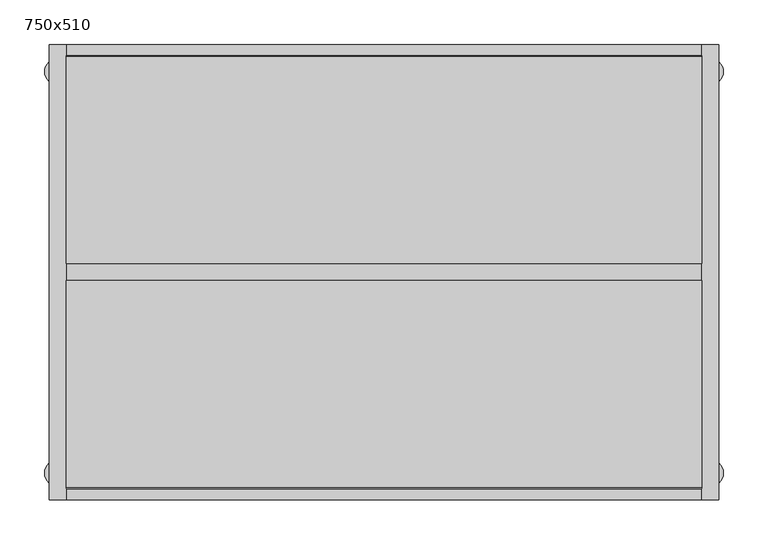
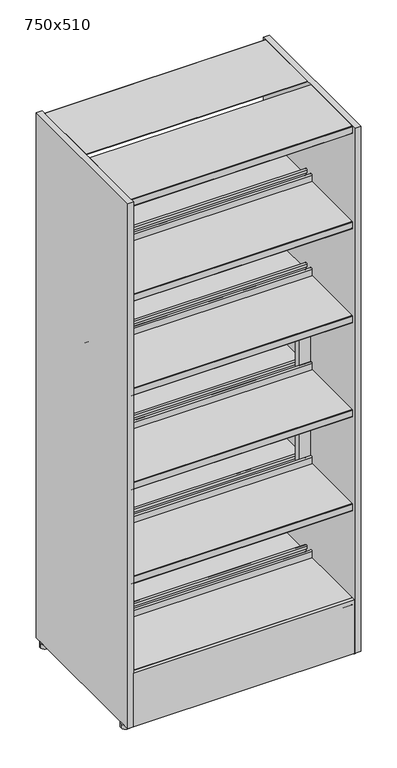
"""IFC4 building model written with IfcOpenShell, lengths in millimetres: furniture geometry, BK Library - Smaaland DS - 1800 : 750x510."""

from ifc_helpers import new_model, si_unit, point, frame, frame_2d, origin, origin_with_axes, place, context, project, spatial, polyline, circle_curve, trimmed, segment, composite_curve, outline, extrude, source, transform, mapped, element, save


def furniture_750x510_247eee5f(model_context):
    return source(origin(), model_context, "Body", "SweptSolid", [
        extrude(outline(polyline([(356.0, 255.0), (356.0, 242.7476624), (-356.0, 242.7476624), (-356.0, 255.0), (356.0, 255.0)])), frame((0.0, 0.0, 13.6999998), z_axis=(0.0, 0.0, 1.0), x_axis=(1.0, 0.0, 0.0)), (0.0, 0.0, 1.0), 181.4999514),
        extrude(outline(polyline([(356.0, -242.7476624), (356.0, -255.0), (-356.0, -255.0), (-356.0, -242.7476624), (356.0, -242.7476624)])), frame((0.0, 0.0, 13.6999998), z_axis=(0.0, 0.0, 1.0), x_axis=(1.0, 0.0, 0.0)), (0.0, 0.0, 1.0), 181.4999514),
        extrude(outline(polyline([(1106.1999512, -356.0), (391.1999512, -356.0), (391.1999512, 356.0), (1106.1999512, 356.0), (1106.1999512, -356.0)]), holes=[polyline([(1066.1999514, -317.5), (1066.1999514, 317.5), (431.1999514, 317.5), (431.1999514, -317.5), (1066.1999514, -317.5)])]), frame((0.0, -9.5, 0.0), z_axis=(0.0, 1.0, 0.0), x_axis=(0.0, 0.0, 1.0)), (0.0, 0.0, 1.0), 19.0),
        extrude(outline(composite_curve([segment(polyline([(9.5, 1800.0), (241.25, 1800.0)]), True, "CONTINUOUS"), segment(trimmed(circle_curve(frame_2d((241.25, 1798.5)), 1.5), [point((241.25, 1800.0))], [point((242.75, 1798.5))], False, "CARTESIAN"), True, "CONTINUOUS"), segment(polyline([(242.75, 1798.5), (242.75, 1776.5)]), True, "CONTINUOUS"), segment(trimmed(circle_curve(frame_2d((241.25, 1776.5)), 1.5), [point((242.75, 1776.5))], [point((241.25, 1775.0))], False, "CARTESIAN"), True, "CONTINUOUS"), segment(polyline([(241.25, 1775.0), (229.25, 1775.0), (229.25, 1776.5), (241.25, 1776.5), (241.25, 1798.0), (9.5, 1798.0), (9.5, 1800.0)]), True, "CONTINUOUS")], self_intersect=False)), frame((-356.0, 0.0, 0.0), z_axis=(1.0, 0.0, 0.0), x_axis=(0.0, 1.0, 0.0)), (0.0, 0.0, 1.0), 712.0),
        extrude(outline(composite_curve([segment(polyline([(17.75, 1475.1999512), (241.25, 1475.1999512)]), True, "CONTINUOUS"), segment(trimmed(circle_curve(frame_2d((241.25, 1473.6999512)), 1.5), [point((241.25, 1475.1999512))], [point((242.75, 1473.6999512))], False, "CARTESIAN"), True, "CONTINUOUS"), segment(polyline([(242.75, 1473.6999512), (242.75, 1452.1999512)]), True, "CONTINUOUS"), segment(trimmed(circle_curve(frame_2d((241.25, 1452.1999512)), 1.5), [point((242.75, 1452.1999512))], [point((241.25, 1450.6999512))], False, "CARTESIAN"), True, "CONTINUOUS"), segment(polyline([(241.25, 1450.6999512), (229.25, 1450.6999512), (229.25, 1452.1999512), (241.25, 1452.1999512), (241.25, 1473.6999512), (17.7048221, 1473.6999512)]), True, "CONTINUOUS"), segment(trimmed(circle_curve(frame_2d((17.7048221, 1475.1547733)), 1.4548221), [point((17.7048221, 1473.6999512))], [point((16.25, 1475.1547733))], False, "CARTESIAN"), True, "CONTINUOUS"), segment(polyline([(16.25, 1475.1547733), (16.25, 1496.7020126)]), True, "CONTINUOUS"), segment(trimmed(circle_curve(frame_2d((14.25, 1496.7020126)), 2.0), [point((16.25, 1496.7020126))], [point((12.25, 1496.7020126))], True, "CARTESIAN"), True, "CONTINUOUS"), segment(polyline([(12.25, 1496.7020126), (12.25, 1488.1999512), (10.75, 1488.1999512), (10.75, 1496.7196336)]), True, "CONTINUOUS"), segment(trimmed(circle_curve(frame_2d((14.25, 1496.7196336)), 3.5), [point((10.75, 1496.7196336))], [point((17.75, 1496.7196336))], False, "CARTESIAN"), True, "CONTINUOUS"), segment(polyline([(17.75, 1496.7196336), (17.75, 1475.1999512)]), True, "CONTINUOUS")], self_intersect=False)), frame((-356.0, 0.0, 0.0), z_axis=(1.0, 0.0, 0.0), x_axis=(0.0, 1.0, 0.0)), (0.0, 0.0, 1.0), 712.0),
        extrude(outline(composite_curve([segment(polyline([(17.75, 1155.1999512), (241.25, 1155.1999512)]), True, "CONTINUOUS"), segment(trimmed(circle_curve(frame_2d((241.25, 1153.6999512)), 1.5), [point((241.25, 1155.1999512))], [point((242.75, 1153.6999512))], False, "CARTESIAN"), True, "CONTINUOUS"), segment(polyline([(242.75, 1153.6999512), (242.75, 1132.1999512)]), True, "CONTINUOUS"), segment(trimmed(circle_curve(frame_2d((241.25, 1132.1999512)), 1.5), [point((242.75, 1132.1999512))], [point((241.25, 1130.6999512))], False, "CARTESIAN"), True, "CONTINUOUS"), segment(polyline([(241.25, 1130.6999512), (229.25, 1130.6999512), (229.25, 1132.1999512), (241.25, 1132.1999512), (241.25, 1153.6999512), (17.7048221, 1153.6999512)]), True, "CONTINUOUS"), segment(trimmed(circle_curve(frame_2d((17.7048221, 1155.1547733)), 1.4548221), [point((17.7048221, 1153.6999512))], [point((16.25, 1155.1547733))], False, "CARTESIAN"), True, "CONTINUOUS"), segment(polyline([(16.25, 1155.1547733), (16.25, 1176.7020126)]), True, "CONTINUOUS"), segment(trimmed(circle_curve(frame_2d((14.25, 1176.7020126)), 2.0), [point((16.25, 1176.7020126))], [point((12.25, 1176.7020126))], True, "CARTESIAN"), True, "CONTINUOUS"), segment(polyline([(12.25, 1176.7020126), (12.25, 1168.1999512), (10.75, 1168.1999512), (10.75, 1176.7196336)]), True, "CONTINUOUS"), segment(trimmed(circle_curve(frame_2d((14.25, 1176.7196336)), 3.5), [point((10.75, 1176.7196336))], [point((17.75, 1176.7196336))], False, "CARTESIAN"), True, "CONTINUOUS"), segment(polyline([(17.75, 1176.7196336), (17.75, 1155.1999512)]), True, "CONTINUOUS")], self_intersect=False)), frame((-356.0, 0.0, 0.0), z_axis=(1.0, 0.0, 0.0), x_axis=(0.0, 1.0, 0.0)), (0.0, 0.0, 1.0), 712.0),
        extrude(outline(composite_curve([segment(polyline([(17.75, 835.1999512), (241.25, 835.1999512)]), True, "CONTINUOUS"), segment(trimmed(circle_curve(frame_2d((241.25, 833.6999512)), 1.5), [point((241.25, 835.1999512))], [point((242.75, 833.6999512))], False, "CARTESIAN"), True, "CONTINUOUS"), segment(polyline([(242.75, 833.6999512), (242.75, 812.1999512)]), True, "CONTINUOUS"), segment(trimmed(circle_curve(frame_2d((241.25, 812.1999512)), 1.5), [point((242.75, 812.1999512))], [point((241.25, 810.6999512))], False, "CARTESIAN"), True, "CONTINUOUS"), segment(polyline([(241.25, 810.6999512), (229.25, 810.6999512), (229.25, 812.1999512), (241.25, 812.1999512), (241.25, 833.6999512), (17.7048221, 833.6999512)]), True, "CONTINUOUS"), segment(trimmed(circle_curve(frame_2d((17.7048221, 835.1547733)), 1.4548221), [point((17.7048221, 833.6999512))], [point((16.25, 835.1547733))], False, "CARTESIAN"), True, "CONTINUOUS"), segment(polyline([(16.25, 835.1547733), (16.25, 856.7020126)]), True, "CONTINUOUS"), segment(trimmed(circle_curve(frame_2d((14.25, 856.7020126)), 2.0), [point((16.25, 856.7020126))], [point((12.25, 856.7020126))], True, "CARTESIAN"), True, "CONTINUOUS"), segment(polyline([(12.25, 856.7020126), (12.25, 848.1999512), (10.75, 848.1999512), (10.75, 856.7196336)]), True, "CONTINUOUS"), segment(trimmed(circle_curve(frame_2d((14.25, 856.7196336)), 3.5), [point((10.75, 856.7196336))], [point((17.75, 856.7196336))], False, "CARTESIAN"), True, "CONTINUOUS"), segment(polyline([(17.75, 856.7196336), (17.75, 835.1999512)]), True, "CONTINUOUS")], self_intersect=False)), frame((-356.0, 0.0, 0.0), z_axis=(1.0, 0.0, 0.0), x_axis=(0.0, 1.0, 0.0)), (0.0, 0.0, 1.0), 712.0),
        extrude(outline(composite_curve([segment(polyline([(17.75, 515.1999512), (241.25, 515.1999512)]), True, "CONTINUOUS"), segment(trimmed(circle_curve(frame_2d((241.25, 513.6999512)), 1.5), [point((241.25, 515.1999512))], [point((242.75, 513.6999512))], False, "CARTESIAN"), True, "CONTINUOUS"), segment(polyline([(242.75, 513.6999512), (242.75, 492.1999512)]), True, "CONTINUOUS"), segment(trimmed(circle_curve(frame_2d((241.25, 492.1999512)), 1.5), [point((242.75, 492.1999512))], [point((241.25, 490.6999512))], False, "CARTESIAN"), True, "CONTINUOUS"), segment(polyline([(241.25, 490.6999512), (229.25, 490.6999512), (229.25, 492.1999512), (241.25, 492.1999512), (241.25, 513.6999512), (17.7048221, 513.6999512)]), True, "CONTINUOUS"), segment(trimmed(circle_curve(frame_2d((17.7048221, 515.1547733)), 1.4548221), [point((17.7048221, 513.6999512))], [point((16.25, 515.1547733))], False, "CARTESIAN"), True, "CONTINUOUS"), segment(polyline([(16.25, 515.1547733), (16.25, 536.7020126)]), True, "CONTINUOUS"), segment(trimmed(circle_curve(frame_2d((14.25, 536.7020126)), 2.0), [point((16.25, 536.7020126))], [point((12.25, 536.7020126))], True, "CARTESIAN"), True, "CONTINUOUS"), segment(polyline([(12.25, 536.7020126), (12.25, 528.1999512), (10.75, 528.1999512), (10.75, 536.7196336)]), True, "CONTINUOUS"), segment(trimmed(circle_curve(frame_2d((14.25, 536.7196336)), 3.5), [point((10.75, 536.7196336))], [point((17.75, 536.7196336))], False, "CARTESIAN"), True, "CONTINUOUS"), segment(polyline([(17.75, 536.7196336), (17.75, 515.1999512)]), True, "CONTINUOUS")], self_intersect=False)), frame((-356.0, 0.0, 0.0), z_axis=(1.0, 0.0, 0.0), x_axis=(0.0, 1.0, 0.0)), (0.0, 0.0, 1.0), 712.0),
        extrude(outline(composite_curve([segment(polyline([(17.75, 195.1999512), (241.25, 195.1999512)]), True, "CONTINUOUS"), segment(trimmed(circle_curve(frame_2d((241.25, 193.6999512)), 1.5), [point((241.25, 195.1999512))], [point((242.75, 193.6999512))], False, "CARTESIAN"), True, "CONTINUOUS"), segment(polyline([(242.75, 193.6999512), (242.75, 172.1999512)]), True, "CONTINUOUS"), segment(trimmed(circle_curve(frame_2d((241.25, 172.1999512)), 1.5), [point((242.75, 172.1999512))], [point((241.25, 170.6999512))], False, "CARTESIAN"), True, "CONTINUOUS"), segment(polyline([(241.25, 170.6999512), (229.25, 170.6999512), (229.25, 172.1999512), (241.25, 172.1999512), (241.25, 193.6999512), (17.7048221, 193.6999512)]), True, "CONTINUOUS"), segment(trimmed(circle_curve(frame_2d((17.7048221, 195.1547733)), 1.4548221), [point((17.7048221, 193.6999512))], [point((16.25, 195.1547733))], False, "CARTESIAN"), True, "CONTINUOUS"), segment(polyline([(16.25, 195.1547733), (16.25, 216.7020126)]), True, "CONTINUOUS"), segment(trimmed(circle_curve(frame_2d((14.25, 216.7020126)), 2.0), [point((16.25, 216.7020126))], [point((12.25, 216.7020126))], True, "CARTESIAN"), True, "CONTINUOUS"), segment(polyline([(12.25, 216.7020126), (12.25, 208.1999512), (10.75, 208.1999512), (10.75, 216.7196336)]), True, "CONTINUOUS"), segment(trimmed(circle_curve(frame_2d((14.25, 216.7196336)), 3.5), [point((10.75, 216.7196336))], [point((17.75, 216.7196336))], False, "CARTESIAN"), True, "CONTINUOUS"), segment(polyline([(17.75, 216.7196336), (17.75, 195.1999512)]), True, "CONTINUOUS")], self_intersect=False)), frame((-356.0, 0.0, 0.0), z_axis=(1.0, 0.0, 0.0), x_axis=(0.0, 1.0, 0.0)), (0.0, 0.0, 1.0), 712.0),
        extrude(outline(composite_curve([segment(polyline([(-9.5, 1800.0), (-9.5, 1798.0), (-241.25, 1798.0), (-241.25, 1776.5), (-229.25, 1776.5), (-229.25, 1775.0), (-241.25, 1775.0)]), True, "CONTINUOUS"), segment(trimmed(circle_curve(frame_2d((-241.25, 1776.5)), 1.5), [point((-241.25, 1775.0))], [point((-242.75, 1776.5))], False, "CARTESIAN"), True, "CONTINUOUS"), segment(polyline([(-242.75, 1776.5), (-242.75, 1798.5)]), True, "CONTINUOUS"), segment(trimmed(circle_curve(frame_2d((-241.25, 1798.5)), 1.5), [point((-242.75, 1798.5))], [point((-241.25, 1800.0))], False, "CARTESIAN"), True, "CONTINUOUS"), segment(polyline([(-241.25, 1800.0), (-9.5, 1800.0)]), True, "CONTINUOUS")], self_intersect=False)), frame((-356.0, 0.0, 0.0), z_axis=(1.0, 0.0, 0.0), x_axis=(0.0, 1.0, 0.0)), (0.0, 0.0, 1.0), 712.0),
        extrude(outline(composite_curve([segment(polyline([(-17.75, 1475.1999512), (-17.75, 1496.7196336)]), True, "CONTINUOUS"), segment(trimmed(circle_curve(frame_2d((-14.25, 1496.7196336)), 3.5), [point((-17.75, 1496.7196336))], [point((-10.75, 1496.7196336))], False, "CARTESIAN"), True, "CONTINUOUS"), segment(polyline([(-10.75, 1496.7196336), (-10.75, 1488.1999512), (-12.25, 1488.1999512), (-12.25, 1496.7020126)]), True, "CONTINUOUS"), segment(trimmed(circle_curve(frame_2d((-14.25, 1496.7020126)), 2.0), [point((-12.25, 1496.7020126))], [point((-16.25, 1496.7020126))], True, "CARTESIAN"), True, "CONTINUOUS"), segment(polyline([(-16.25, 1496.7020126), (-16.25, 1475.1547733)]), True, "CONTINUOUS"), segment(trimmed(circle_curve(frame_2d((-17.7048221, 1475.1547733)), 1.4548221), [point((-16.25, 1475.1547733))], [point((-17.7048221, 1473.6999512))], False, "CARTESIAN"), True, "CONTINUOUS"), segment(polyline([(-17.7048221, 1473.6999512), (-241.25, 1473.6999512), (-241.25, 1452.1999512), (-229.25, 1452.1999512), (-229.25, 1450.6999512), (-241.25, 1450.6999512)]), True, "CONTINUOUS"), segment(trimmed(circle_curve(frame_2d((-241.25, 1452.1999512)), 1.5), [point((-241.25, 1450.6999512))], [point((-242.75, 1452.1999512))], False, "CARTESIAN"), True, "CONTINUOUS"), segment(polyline([(-242.75, 1452.1999512), (-242.75, 1473.6999512)]), True, "CONTINUOUS"), segment(trimmed(circle_curve(frame_2d((-241.25, 1473.6999512)), 1.5), [point((-242.75, 1473.6999512))], [point((-241.25, 1475.1999512))], False, "CARTESIAN"), True, "CONTINUOUS"), segment(polyline([(-241.25, 1475.1999512), (-17.75, 1475.1999512)]), True, "CONTINUOUS")], self_intersect=False)), frame((-356.0, 0.0, 0.0), z_axis=(1.0, 0.0, 0.0), x_axis=(0.0, 1.0, 0.0)), (0.0, 0.0, 1.0), 712.0),
        extrude(outline(composite_curve([segment(polyline([(-17.75, 1155.1999512), (-17.75, 1176.7196336)]), True, "CONTINUOUS"), segment(trimmed(circle_curve(frame_2d((-14.25, 1176.7196336)), 3.5), [point((-17.75, 1176.7196336))], [point((-10.75, 1176.7196336))], False, "CARTESIAN"), True, "CONTINUOUS"), segment(polyline([(-10.75, 1176.7196336), (-10.75, 1168.1999512), (-12.25, 1168.1999512), (-12.25, 1176.7020126)]), True, "CONTINUOUS"), segment(trimmed(circle_curve(frame_2d((-14.25, 1176.7020126)), 2.0), [point((-12.25, 1176.7020126))], [point((-16.25, 1176.7020126))], True, "CARTESIAN"), True, "CONTINUOUS"), segment(polyline([(-16.25, 1176.7020126), (-16.25, 1155.1547733)]), True, "CONTINUOUS"), segment(trimmed(circle_curve(frame_2d((-17.7048221, 1155.1547733)), 1.4548221), [point((-16.25, 1155.1547733))], [point((-17.7048221, 1153.6999512))], False, "CARTESIAN"), True, "CONTINUOUS"), segment(polyline([(-17.7048221, 1153.6999512), (-241.25, 1153.6999512), (-241.25, 1132.1999512), (-229.25, 1132.1999512), (-229.25, 1130.6999512), (-241.25, 1130.6999512)]), True, "CONTINUOUS"), segment(trimmed(circle_curve(frame_2d((-241.25, 1132.1999512)), 1.5), [point((-241.25, 1130.6999512))], [point((-242.75, 1132.1999512))], False, "CARTESIAN"), True, "CONTINUOUS"), segment(polyline([(-242.75, 1132.1999512), (-242.75, 1153.6999512)]), True, "CONTINUOUS"), segment(trimmed(circle_curve(frame_2d((-241.25, 1153.6999512)), 1.5), [point((-242.75, 1153.6999512))], [point((-241.25, 1155.1999512))], False, "CARTESIAN"), True, "CONTINUOUS"), segment(polyline([(-241.25, 1155.1999512), (-17.75, 1155.1999512)]), True, "CONTINUOUS")], self_intersect=False)), frame((-356.0, 0.0, 0.0), z_axis=(1.0, 0.0, 0.0), x_axis=(0.0, 1.0, 0.0)), (0.0, 0.0, 1.0), 712.0),
        extrude(outline(composite_curve([segment(polyline([(-17.75, 835.1999512), (-17.75, 856.7196336)]), True, "CONTINUOUS"), segment(trimmed(circle_curve(frame_2d((-14.25, 856.7196336)), 3.5), [point((-17.75, 856.7196336))], [point((-10.75, 856.7196336))], False, "CARTESIAN"), True, "CONTINUOUS"), segment(polyline([(-10.75, 856.7196336), (-10.75, 848.1999512), (-12.25, 848.1999512), (-12.25, 856.7020126)]), True, "CONTINUOUS"), segment(trimmed(circle_curve(frame_2d((-14.25, 856.7020126)), 2.0), [point((-12.25, 856.7020126))], [point((-16.25, 856.7020126))], True, "CARTESIAN"), True, "CONTINUOUS"), segment(polyline([(-16.25, 856.7020126), (-16.25, 835.1547733)]), True, "CONTINUOUS"), segment(trimmed(circle_curve(frame_2d((-17.7048221, 835.1547733)), 1.4548221), [point((-16.25, 835.1547733))], [point((-17.7048221, 833.6999512))], False, "CARTESIAN"), True, "CONTINUOUS"), segment(polyline([(-17.7048221, 833.6999512), (-241.25, 833.6999512), (-241.25, 812.1999512), (-229.25, 812.1999512), (-229.25, 810.6999512), (-241.25, 810.6999512)]), True, "CONTINUOUS"), segment(trimmed(circle_curve(frame_2d((-241.25, 812.1999512)), 1.5), [point((-241.25, 810.6999512))], [point((-242.75, 812.1999512))], False, "CARTESIAN"), True, "CONTINUOUS"), segment(polyline([(-242.75, 812.1999512), (-242.75, 833.6999512)]), True, "CONTINUOUS"), segment(trimmed(circle_curve(frame_2d((-241.25, 833.6999512)), 1.5), [point((-242.75, 833.6999512))], [point((-241.25, 835.1999512))], False, "CARTESIAN"), True, "CONTINUOUS"), segment(polyline([(-241.25, 835.1999512), (-17.75, 835.1999512)]), True, "CONTINUOUS")], self_intersect=False)), frame((-356.0, 0.0, 0.0), z_axis=(1.0, 0.0, 0.0), x_axis=(0.0, 1.0, 0.0)), (0.0, 0.0, 1.0), 712.0),
        extrude(outline(composite_curve([segment(polyline([(-17.75, 515.1999512), (-17.75, 536.7196336)]), True, "CONTINUOUS"), segment(trimmed(circle_curve(frame_2d((-14.25, 536.7196336)), 3.5), [point((-17.75, 536.7196336))], [point((-10.75, 536.7196336))], False, "CARTESIAN"), True, "CONTINUOUS"), segment(polyline([(-10.75, 536.7196336), (-10.75, 528.1999512), (-12.25, 528.1999512), (-12.25, 536.7020126)]), True, "CONTINUOUS"), segment(trimmed(circle_curve(frame_2d((-14.25, 536.7020126)), 2.0), [point((-12.25, 536.7020126))], [point((-16.25, 536.7020126))], True, "CARTESIAN"), True, "CONTINUOUS"), segment(polyline([(-16.25, 536.7020126), (-16.25, 515.1547733)]), True, "CONTINUOUS"), segment(trimmed(circle_curve(frame_2d((-17.7048221, 515.1547733)), 1.4548221), [point((-16.25, 515.1547733))], [point((-17.7048221, 513.6999512))], False, "CARTESIAN"), True, "CONTINUOUS"), segment(polyline([(-17.7048221, 513.6999512), (-241.25, 513.6999512), (-241.25, 492.1999512), (-229.25, 492.1999512), (-229.25, 490.6999512), (-241.25, 490.6999512)]), True, "CONTINUOUS"), segment(trimmed(circle_curve(frame_2d((-241.25, 492.1999512)), 1.5), [point((-241.25, 490.6999512))], [point((-242.75, 492.1999512))], False, "CARTESIAN"), True, "CONTINUOUS"), segment(polyline([(-242.75, 492.1999512), (-242.75, 513.6999512)]), True, "CONTINUOUS"), segment(trimmed(circle_curve(frame_2d((-241.25, 513.6999512)), 1.5), [point((-242.75, 513.6999512))], [point((-241.25, 515.1999512))], False, "CARTESIAN"), True, "CONTINUOUS"), segment(polyline([(-241.25, 515.1999512), (-17.75, 515.1999512)]), True, "CONTINUOUS")], self_intersect=False)), frame((-356.0, 0.0, 0.0), z_axis=(1.0, 0.0, 0.0), x_axis=(0.0, 1.0, 0.0)), (0.0, 0.0, 1.0), 712.0),
        extrude(outline(composite_curve([segment(polyline([(-17.75, 195.1999512), (-17.75, 216.7196336)]), True, "CONTINUOUS"), segment(trimmed(circle_curve(frame_2d((-14.25, 216.7196336)), 3.5), [point((-17.75, 216.7196336))], [point((-10.75, 216.7196336))], False, "CARTESIAN"), True, "CONTINUOUS"), segment(polyline([(-10.75, 216.7196336), (-10.75, 208.1999512), (-12.25, 208.1999512), (-12.25, 216.7020126)]), True, "CONTINUOUS"), segment(trimmed(circle_curve(frame_2d((-14.25, 216.7020126)), 2.0), [point((-12.25, 216.7020126))], [point((-16.25, 216.7020126))], True, "CARTESIAN"), True, "CONTINUOUS"), segment(polyline([(-16.25, 216.7020126), (-16.25, 195.1547733)]), True, "CONTINUOUS"), segment(trimmed(circle_curve(frame_2d((-17.7048221, 195.1547733)), 1.4548221), [point((-16.25, 195.1547733))], [point((-17.7048221, 193.6999512))], False, "CARTESIAN"), True, "CONTINUOUS"), segment(polyline([(-17.7048221, 193.6999512), (-241.25, 193.6999512), (-241.25, 172.1999512), (-229.25, 172.1999512), (-229.25, 170.6999512), (-241.25, 170.6999512)]), True, "CONTINUOUS"), segment(trimmed(circle_curve(frame_2d((-241.25, 172.1999512)), 1.5), [point((-241.25, 170.6999512))], [point((-242.75, 172.1999512))], False, "CARTESIAN"), True, "CONTINUOUS"), segment(polyline([(-242.75, 172.1999512), (-242.75, 193.6999512)]), True, "CONTINUOUS"), segment(trimmed(circle_curve(frame_2d((-241.25, 193.6999512)), 1.5), [point((-242.75, 193.6999512))], [point((-241.25, 195.1999512))], False, "CARTESIAN"), True, "CONTINUOUS"), segment(polyline([(-241.25, 195.1999512), (-17.75, 195.1999512)]), True, "CONTINUOUS")], self_intersect=False)), frame((-356.0, 0.0, 0.0), z_axis=(1.0, 0.0, 0.0), x_axis=(0.0, 1.0, 0.0)), (0.0, 0.0, 1.0), 712.0),
        extrude(outline(polyline([(356.0, 255.0), (375.0, 255.0), (375.0, -255.0), (356.0, -255.0), (356.0, 255.0)])), frame((0.0, 0.0, 13.6999998), z_axis=(0.0, 0.0, 1.0), x_axis=(1.0, 0.0, 0.0)), (0.0, 0.0, 1.0), 1786.3000002),
        extrude(outline(polyline([(-356.0, 255.0), (-356.0, -255.0), (-375.0, -255.0), (-375.0, 255.0), (-356.0, 255.0)])), frame((0.0, 0.0, 13.6999998), z_axis=(0.0, 0.0, 1.0), x_axis=(1.0, 0.0, 0.0)), (0.0, 0.0, 1.0), 1786.3000002),
        extrude(outline(composite_curve([segment(trimmed(circle_curve(frame_2d((365.5005427, 224.9952633)), 14.4994573), [point((380.0, 224.9952633))], [point((351.0010853, 224.9952633))], False, "CARTESIAN"), True, "CONTINUOUS"), segment(trimmed(circle_curve(frame_2d((365.5005427, 224.9952633)), 14.4994573), [point((351.0010853, 224.9952633))], [point((380.0, 224.9952633))], False, "CARTESIAN"), True, "CONTINUOUS")], self_intersect=False)), origin_with_axes(), (0.0, 0.0, 1.0), 13.6999998),
        extrude(outline(composite_curve([segment(trimmed(circle_curve(frame_2d((-365.5005427, 224.9952633)), 14.4994573), [point((-380.0, 224.9952633))], [point((-351.0010853, 224.9952633))], False, "CARTESIAN"), True, "CONTINUOUS"), segment(trimmed(circle_curve(frame_2d((-365.5005427, 224.9952633)), 14.4994573), [point((-351.0010853, 224.9952633))], [point((-380.0, 224.9952633))], False, "CARTESIAN"), True, "CONTINUOUS")], self_intersect=False)), origin_with_axes(), (0.0, 0.0, 1.0), 13.6999998),
        extrude(outline(composite_curve([segment(trimmed(circle_curve(frame_2d((365.5005427, -224.9952633)), 14.4994573), [point((380.0, -224.9952633))], [point((351.0010853, -224.9952633))], False, "CARTESIAN"), True, "CONTINUOUS"), segment(trimmed(circle_curve(frame_2d((365.5005427, -224.9952633)), 14.4994573), [point((351.0010853, -224.9952633))], [point((380.0, -224.9952633))], False, "CARTESIAN"), True, "CONTINUOUS")], self_intersect=False)), origin_with_axes(), (0.0, 0.0, 1.0), 13.6999998),
        extrude(outline(composite_curve([segment(trimmed(circle_curve(frame_2d((-365.5005427, -224.9952633)), 14.4994573), [point((-380.0, -224.9952633))], [point((-351.0010853, -224.9952633))], False, "CARTESIAN"), True, "CONTINUOUS"), segment(trimmed(circle_curve(frame_2d((-365.5005427, -224.9952633)), 14.4994573), [point((-351.0010853, -224.9952633))], [point((-380.0, -224.9952633))], False, "CARTESIAN"), True, "CONTINUOUS")], self_intersect=False)), origin_with_axes(), (0.0, 0.0, 1.0), 13.6999998),
    ])


if __name__ == "__main__":
    model = new_model("IFC4")
    model_context = context("Model", 3, world=origin())
    ifc_project = project(units=[si_unit("LENGTHUNIT", "METRE", prefix="MILLI")], contexts=[model_context])
    site = spatial("IfcSite", under=ifc_project)
    building = spatial("IfcBuilding", under=site)
    placement = place(None, origin())
    furniture_750x510_shape = furniture_750x510_247eee5f(model_context)
    element("IfcFurniture", 1, ObjectType="BK Library - Smaaland DS - 1800 : 750x510", at=placement, inside=building, context=model_context, shape_type="MappedRepresentation", body=[
        mapped(furniture_750x510_shape, transform((0.0, 0.0, 0.0), x_axis=(1.0, 0.0, 0.0), y_axis=(0.0, 1.0, 0.0), z_axis=(0.0, 0.0, 1.0))),
    ])
    save(model, "model.ifc")
